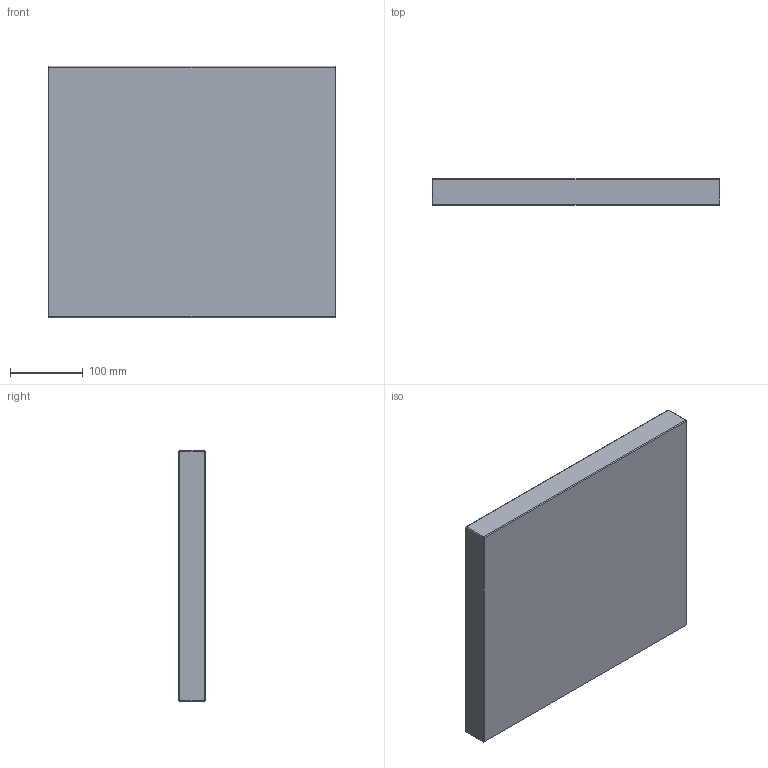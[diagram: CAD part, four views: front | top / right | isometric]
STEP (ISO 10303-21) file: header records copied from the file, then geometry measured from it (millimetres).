
FILE_DESCRIPTION (( 'STEP AP214' ), '1' );
FILE_NAME ('PBA-P-346x346x36.STEP', '2020-03-11T15:51:20', ( 'August' ), ( '' ), 'SwSTEP 2.0', 'SolidWorks 2018', '' );
FILE_SCHEMA (( 'AUTOMOTIVE_DESIGN' ));
Length unit declared in the file: millimetre
Products named in the file (1): PBA-P-346x346x36
Bounding box: 396 x 36 x 346 mm (x, y, z)
Volume: 4931025.3 mm3; surface area: 325630 mm2
Topology: 1 solids, 1 shells, 26 faces, 48 edges, 24 vertices
Faces by surface type: plane 26
Entity records: 634 total; most frequent: DIRECTION 102, CARTESIAN_POINT 99, ORIENTED_EDGE 96, EDGE_CURVE 48, LINE 48, VECTOR 48, AXIS2_PLACEMENT_3D 27, EDGE_LOOP 26
